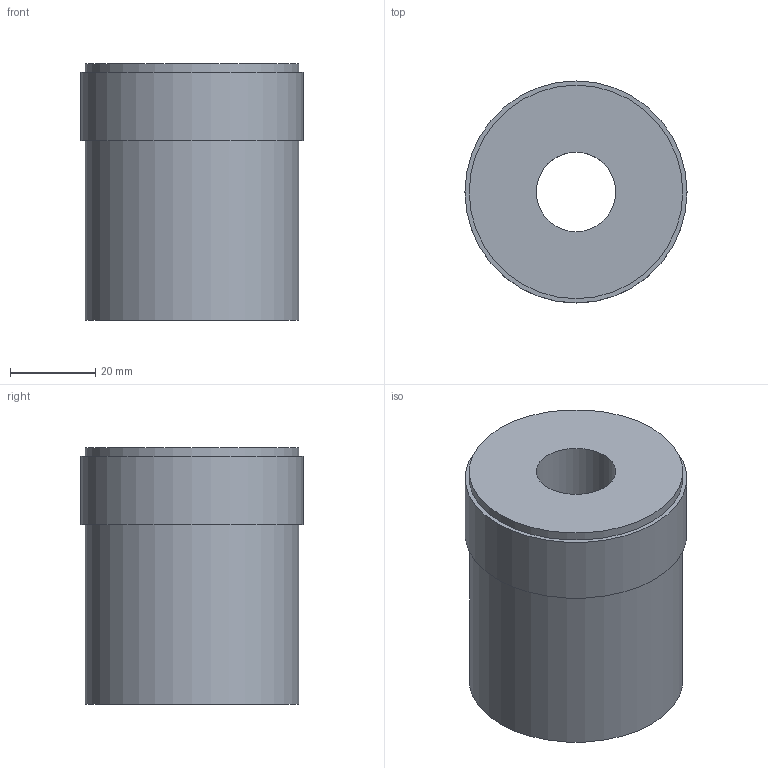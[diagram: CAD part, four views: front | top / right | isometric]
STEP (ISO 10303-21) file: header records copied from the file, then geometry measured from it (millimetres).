
FILE_DESCRIPTION(/* description */ (''),/* implementation_level */ '2;1');
FILE_NAME(/* name */ 'Z:\Geberit\Export\NewStep\361719.stp',/* time_stamp */ '2014-04-01T21:07:00+02:00',/* author */ ('nelson'),/* organization */ (''),/* preprocessor_version */ 'ST-DEVELOPER v15.2',/* originating_system */ 'Autodesk Inventor 2014',/* authorisation */ '');
FILE_SCHEMA (('AUTOMOTIVE_DESIGN { 1 0 10303 214 3 1 1 }'));
Length unit declared in the file: millimetre
Products named in the file (1): 361719
Bounding box: 52 x 52 x 60 mm (x, y, z)
Volume: 57815.8 mm3; surface area: 19133.4 mm2
Topology: 1 solids, 1 shells, 11 faces, 21 edges, 14 vertices
Faces by surface type: cylinder 5, plane 4, torus 1, cone 1
Full cylindrical faces by diameter (mm): 18.631 x1, 44 x1, 50 x2, 52 x1
Entity records: 259 total; most frequent: DIRECTION 46, CARTESIAN_POINT 34, AXIS2_PLACEMENT_3D 23, EDGE_LOOP 22, ORIENTED_EDGE 22, FACE_BOUND 14, CIRCLE 11, VERTEX_POINT 11
